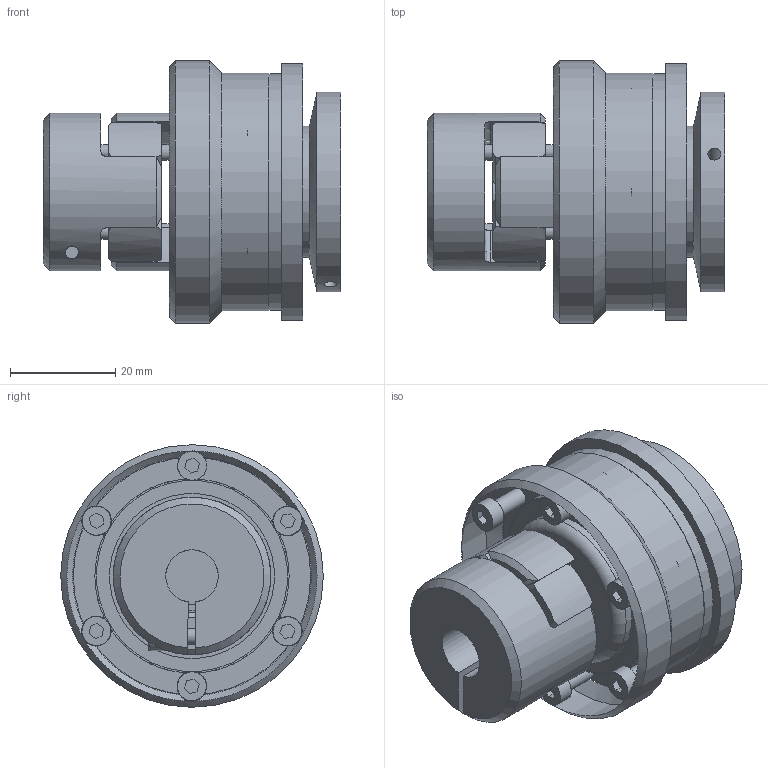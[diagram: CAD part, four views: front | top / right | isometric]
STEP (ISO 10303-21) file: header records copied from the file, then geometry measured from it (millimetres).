
FILE_DESCRIPTION( ( 'Unknown' ), '1' );
FILE_NAME( 'C:/Users/skarpstein/Desktop/Korrigierte 3D Modelle/KBK-E-KP/KBK EKP-14.stp', 'Unknown', ( 'Unknown' ), ( 'Unknown' ), 'PSStep 16.0.42', 'Unknown', ' ' );
FILE_SCHEMA( ( 'AUTOMOTIVE_DESIGN { 1 0 10303 214 1 1 1 1 }' ) );
Length unit declared in the file: millimetre
Products named in the file (27): ball_bearing_-_61904_0_02; ball_bearing_-_61904_0_03; Zylinderschraube DIN 912; ball_bearing_-_61904_0_01; a_20; Assem1; Flansch L-LL10; Elastomerflansch EK 10; Assem3; Druckring 10; Stellring 10; L-P-10 Grundteil; Zahnkranz_14_Standard; KBE 2 - 14_Nabe; Socket Head Cap Screw_DIN_DIN 912 M3 x 10 --- 10N_2
Assembly tree (31 placements, depth 4):
  Assem1
    KBE 2 - 14_Nabe
    Socket Head Cap Screw_DIN_DIN 912 M3 x 10 --- 10N_2
    L-P-10 Grundteil
      L-P-10 Grundteil
    Stellring 10
      Stellring 10
    Druckring 10
      Druckring 10
    a_20
      a_20
    Flansch L-LL10
      Flansch L-LL10
    Zahnkranz_14_Standard
      Zahnkranz_14_Standard
    Elastomerflansch EK 10
      Elastomerflansch EK 10
    Assem3
      ball_bearing_-_61904_0_01
        ball_bearing_-_61904_0_01
      ball_bearing_-_61904_0_02
        ball_bearing_-_61904_0_02
      ball_bearing_-_61904_0_03
        ball_bearing_-_61904_0_03
    Assem1  x6
      Zylinderschraube DIN 912
        Zylinderschraube DIN 912
Bounding box: 56.7 x 50 x 50 mm (x, y, z)
Volume: 58637.6 mm3; surface area: 37250 mm2
Topology: 18 solids, 18 shells, 318 faces, 706 edges, 447 vertices
Faces by surface type: plane 143, cylinder 107, cone 51, torus 17
Full cylindrical faces by diameter (mm): 2 x2, 2.459 x8, 2.5 x1, 3 x11, 3.4 x6, 3.5 x1, 5.5 x7, 5.6 x6, 10 x2, 14 x1, 19 x1, 20 x3, 24 x2, 25 x1, 25.6 x2, 29 x1, 29.993 x1, 30 x1, 31.4 x2, 37 x3, 38 x1, 40 x1, 45 x1, 45.2 x1, 49 x1, 50 x1
Entity records: 9551 total; most frequent: CARTESIAN_POINT 1590, DIRECTION 1275, ORIENTED_EDGE 938, AXIS2_PLACEMENT_3D 574, EDGE_CURVE 469, EDGE_LOOP 387, VERTEX_POINT 341, FACE_OUTER_BOUND 321
